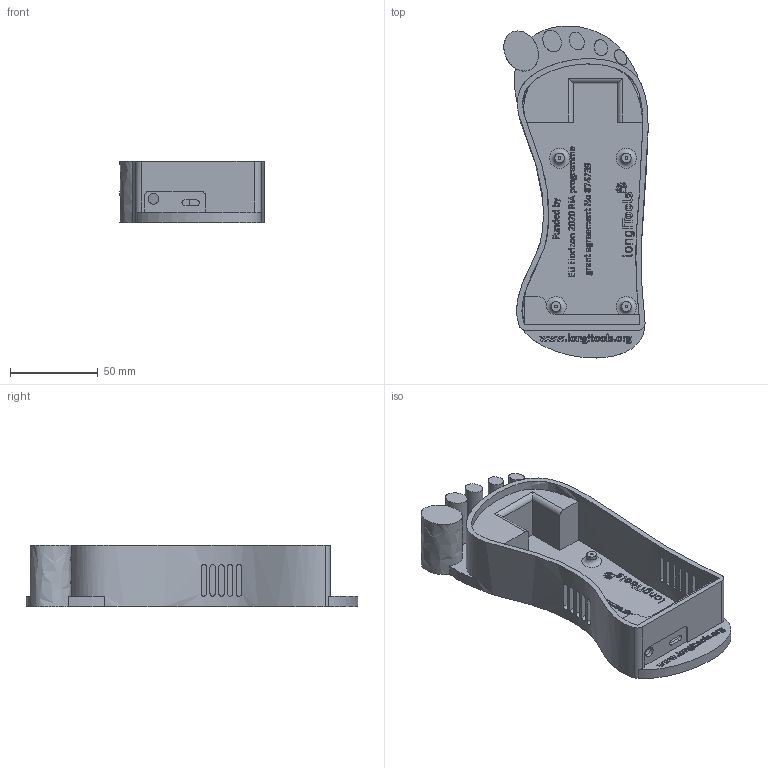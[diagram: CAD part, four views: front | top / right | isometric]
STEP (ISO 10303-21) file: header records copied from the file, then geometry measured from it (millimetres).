
FILE_DESCRIPTION (( 'STEP AP214' ), '1' );
FILE_NAME ('1MCY0030117A CO2 sensor carbon footprint box.STEP', '2025-02-11T11:55:31', ( '' ), ( '' ), 'SwSTEP 2.0', 'SolidWorks 2020', '' );
FILE_SCHEMA (( 'AUTOMOTIVE_DESIGN' ));
Length unit declared in the file: millimetre
Products named in the file (1): 1MCY0030117A CO2 sensor carbon footprint box
Bounding box: 82.21 x 189.01 x 35 mm (x, y, z)
Volume: 143532.7 mm3; surface area: 63481.9 mm2
Topology: 1 solids, 1 shells, 2508 faces, 6747 edges, 4497 vertices
Faces by surface type: bspline 1488, plane 974, cylinder 42, torus 4
Full cylindrical faces by diameter (mm): 1.5 x4, 5.5 x4, 6 x1
Entity records: 143155 total; most frequent: CARTESIAN_POINT 90706, ORIENTED_EDGE 13420, EDGE_CURVE 6710, DIRECTION 5750, VERTEX_POINT 4492, VECTOR 3624, LINE 3624, B_SPLINE_CURVE_WITH_KNOTS 3031
